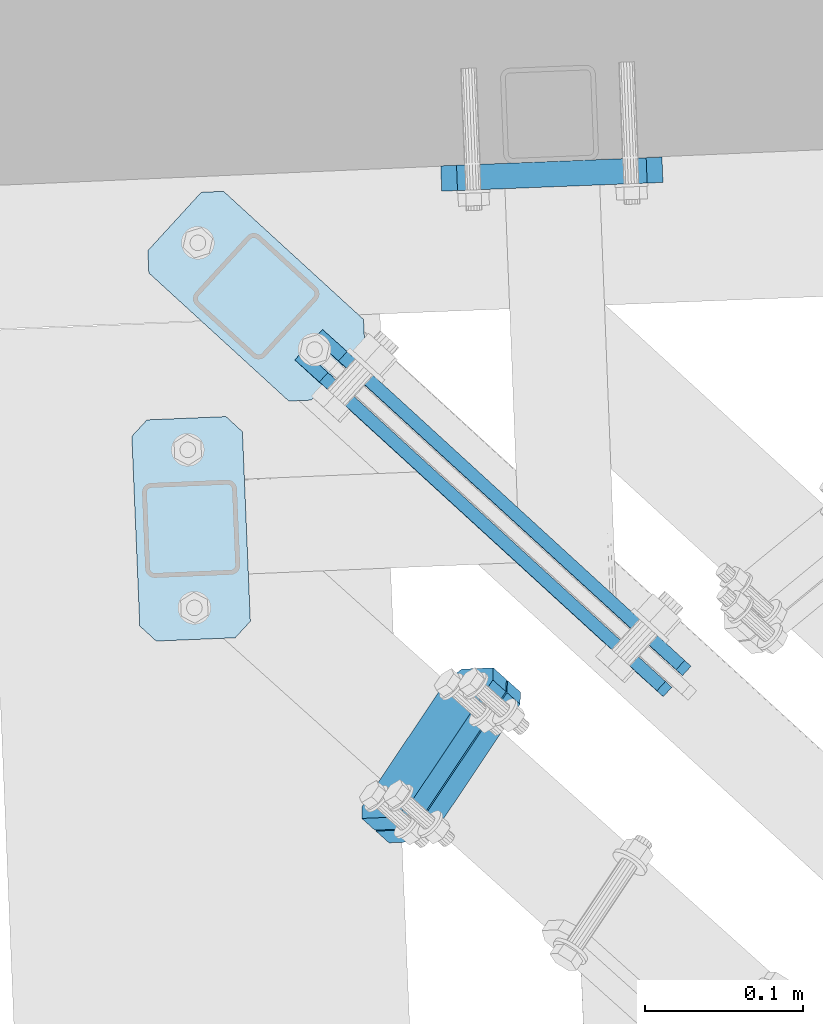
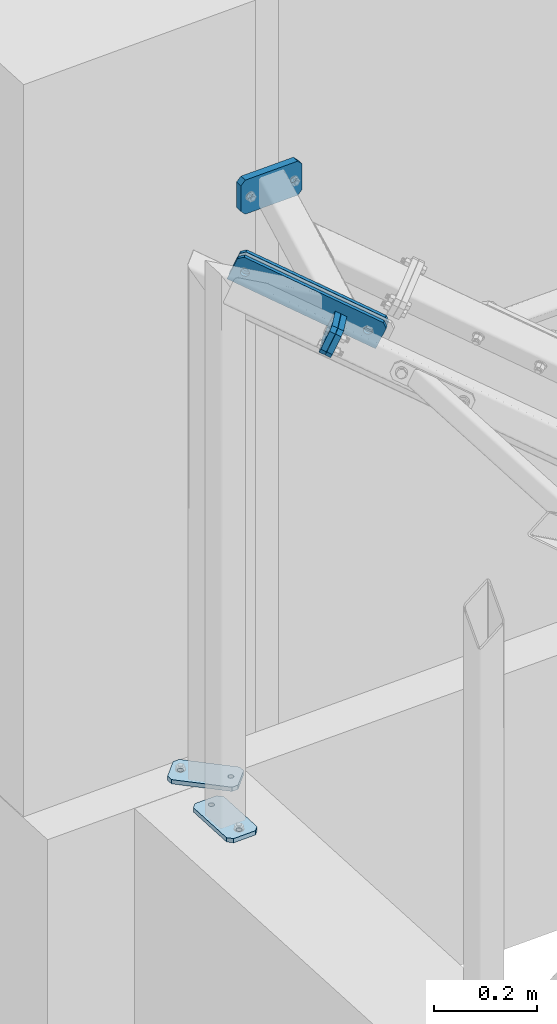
# One storey, part 57 of 288: 7 plates, 42 openings.
"""IFC2X3 building model written with IfcOpenShell, lengths in millimetres."""

from ifc_helpers import new_model, entity, si_unit, converted_unit, point, frame, frame_2d, origin, origin_with_axes, origin_2d_with_axis, place, context, project, spatial, polyline, circle_curve, line_curve, trimmed, segment, composite_curve, circle, outline, extrude, material, layer, layer_set, element, save


model = new_model("IFC2X3")

# Units and contexts
model_context = context("Model", 3, precision=1e-09, world=origin_with_axes())
ifc_project = project(units=[si_unit("LENGTHUNIT", "METRE", prefix="MILLI"), si_unit("AREAUNIT", "SQUARE_METRE"), si_unit("VOLUMEUNIT", "CUBIC_METRE"), converted_unit("PLANEANGLEUNIT", "DEGREE", entity("IfcPlaneAngleMeasure", 0.01745329), si_unit("PLANEANGLEUNIT", "RADIAN"), dimensions=[0, 0, 0, 0, 0, 0, 0])], contexts=[model_context])

# Site, building, storey
site_placement = place(None, origin_with_axes())
site = spatial("IfcSite", under=ifc_project, at=site_placement, Name="Remont ?wietlik?w nad MC w NCPP w Opolu", CompositionType="ELEMENT")
building_placement = place(site_placement, origin_with_axes())
building = spatial("IfcBuilding", under=site, at=building_placement, Name="Konstrukcja 1", CompositionType="ELEMENT")
storey_placement = place(building_placement, origin_with_axes())
storey = spatial("IfcBuildingStorey", under=building, at=storey_placement, Name="Default Storey", CompositionType="ELEMENT", Elevation=0.0)

# Plate, openings
ifc_material = material(Name="S235")
ifc_layer_1 = layer(ifc_material, 8.0)
ifc_layer_set_1 = layer_set([ifc_layer_1], Name="S235")
plate_1_placement = place(None, frame((-657.886025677, 15401.380087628, 1181.691606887), z_axis=(-0.67400264, -0.738719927, 0.003648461), x_axis=(0.682725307, -0.62478468, -0.378853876)))
plate_1 = element("IfcPlate", 1, at=plate_1_placement, inside=storey, material=ifc_layer_set_1, Name="Plate", ObjectType="Plate", context=model_context, shape_type="SweptSolid", body=[
    extrude(outline(polyline([(-32.295769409, 0.0), (286.199417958, 0.0), (286.199417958, 65.0), (-32.295769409, 65.0), (-32.295769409, 0.0)])), origin_with_axes(), (0.0, 0.0, 1.0), 8.0),
])
opening_1_placement = place(plate_1_placement, frame((0.0, 0.0, -0.01), z_axis=(0.0, 0.0, 1.0), x_axis=(1.0, 0.0, 0.0)))
element("IfcOpeningElement", 2, at=opening_1_placement, cuts=plate_1, ObjectType="Opening", context=model_context, shape_type="SweptSolid", body=[
    extrude(outline(composite_curve([segment(trimmed(line_curve((-32.295769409, 65.0), (0.0, -1.0), 10.0), [point((-32.295769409, 65.0))], [point((-32.295769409, 55.0))], True, "CARTESIAN"), True, "CONTINUOUS"), segment(trimmed(circle_curve(frame_2d((-22.295769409, 55.0), x_axis=(-1.0, 0.0)), 10.0), [point((-32.295769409, 55.0))], [point((-22.295769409, 65.0))], False, "CARTESIAN"), True, "CONTINUOUS"), segment(trimmed(line_curve((-22.295769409, 65.0), (-1.0, 0.0), 10.0), [point((-22.295769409, 65.0))], [point((-32.295769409, 65.0))], True, "CARTESIAN"), True, "CONTINUOUS")], self_intersect=False)), origin(), (0.0, 0.0, 1.0), 8.02),
])
opening_2_placement = place(plate_1_placement, frame((0.0, 0.0, -0.01), z_axis=(0.0, 0.0, 1.0), x_axis=(1.0, 0.0, 0.0)))
element("IfcOpeningElement", 3, at=opening_2_placement, cuts=plate_1, ObjectType="Opening", context=model_context, shape_type="SweptSolid", body=[
    extrude(outline(composite_curve([segment(trimmed(line_curve((286.199417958, 65.0), (-1.0, 0.0), 10.0), [point((286.199417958, 65.0))], [point((276.199417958, 65.0))], True, "CARTESIAN"), True, "CONTINUOUS"), segment(trimmed(circle_curve(frame_2d((276.199417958, 55.0), x_axis=(-1.0, 0.0)), 10.0), [point((276.199417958, 65.0))], [point((286.199417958, 55.0))], False, "CARTESIAN"), True, "CONTINUOUS"), segment(trimmed(line_curve((286.199417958, 55.0), (0.0, 1.0), 10.0), [point((286.199417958, 55.0))], [point((286.199417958, 65.0))], True, "CARTESIAN"), True, "CONTINUOUS")], self_intersect=False)), origin(), (0.0, 0.0, 1.0), 8.02),
])
opening_3_placement = place(plate_1_placement, frame((-7.295769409, 32.5, -0.5), z_axis=(0.0, 0.0, 1.0), x_axis=(0.0, 1.0, 0.0)))
element("IfcOpeningElement", 4, at=opening_3_placement, cuts=plate_1, ObjectType="Opening", context=model_context, shape_type="SweptSolid", body=[
    extrude(circle(Radius=9.001, at=origin_2d_with_axis()), origin(), (0.0, 0.0, 1.0), 9.0),
])
opening_4_placement = place(plate_1_placement, frame((256.199417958, 32.200010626, -0.5), z_axis=(0.0, 0.0, 1.0), x_axis=(0.0, 1.0, 0.0)))
element("IfcOpeningElement", 5, at=opening_4_placement, cuts=plate_1, ObjectType="Opening", context=model_context, shape_type="SweptSolid", body=[
    extrude(circle(Radius=9.001, at=origin_2d_with_axis()), origin(), (0.0, 0.0, 1.0), 9.0),
])

plate_2_placement = place(None, frame((-670.018073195, 15388.083128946, 1181.757279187), z_axis=(-0.67400264, -0.738719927, 0.003648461), x_axis=(0.682725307, -0.62478468, -0.378853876)))
plate_2 = element("IfcPlate", 6, at=plate_2_placement, inside=storey, material=ifc_layer_set_1, Name="Plate", ObjectType="Plate", context=model_context, shape_type="SweptSolid", body=[
    extrude(outline(polyline([(-32.295769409, 0.0), (286.199417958, 0.0), (286.199417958, 65.0), (-32.295769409, 65.0), (-32.295769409, 0.0)])), origin_with_axes(), (0.0, 0.0, 1.0), 8.0),
])
opening_5_placement = place(plate_2_placement, frame((0.0, 0.0, -0.01), z_axis=(0.0, 0.0, 1.0), x_axis=(1.0, 0.0, 0.0)))
element("IfcOpeningElement", 7, at=opening_5_placement, cuts=plate_2, ObjectType="Opening", context=model_context, shape_type="SweptSolid", body=[
    extrude(outline(composite_curve([segment(trimmed(line_curve((-32.295769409, 65.0), (0.0, -1.0), 10.0), [point((-32.295769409, 65.0))], [point((-32.295769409, 55.0))], True, "CARTESIAN"), True, "CONTINUOUS"), segment(trimmed(circle_curve(frame_2d((-22.295769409, 55.0), x_axis=(-1.0, 0.0)), 10.0), [point((-32.295769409, 55.0))], [point((-22.295769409, 65.0))], False, "CARTESIAN"), True, "CONTINUOUS"), segment(trimmed(line_curve((-22.295769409, 65.0), (-1.0, 0.0), 10.0), [point((-22.295769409, 65.0))], [point((-32.295769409, 65.0))], True, "CARTESIAN"), True, "CONTINUOUS")], self_intersect=False)), origin(), (0.0, 0.0, 1.0), 8.02),
])
opening_6_placement = place(plate_2_placement, frame((0.0, 0.0, -0.01), z_axis=(0.0, 0.0, 1.0), x_axis=(1.0, 0.0, 0.0)))
element("IfcOpeningElement", 8, at=opening_6_placement, cuts=plate_2, ObjectType="Opening", context=model_context, shape_type="SweptSolid", body=[
    extrude(outline(composite_curve([segment(trimmed(line_curve((286.199417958, 65.0), (-1.0, 0.0), 10.0), [point((286.199417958, 65.0))], [point((276.199417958, 65.0))], True, "CARTESIAN"), True, "CONTINUOUS"), segment(trimmed(circle_curve(frame_2d((276.199417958, 55.0), x_axis=(-1.0, 0.0)), 10.0), [point((276.199417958, 65.0))], [point((286.199417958, 55.0))], False, "CARTESIAN"), True, "CONTINUOUS"), segment(trimmed(line_curve((286.199417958, 55.0), (0.0, 1.0), 10.0), [point((286.199417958, 55.0))], [point((286.199417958, 65.0))], True, "CARTESIAN"), True, "CONTINUOUS")], self_intersect=False)), origin(), (0.0, 0.0, 1.0), 8.02),
])
opening_7_placement = place(plate_2_placement, frame((256.199417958, 32.200010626, -0.5), z_axis=(0.0, 0.0, 1.0), x_axis=(0.0, 1.0, 0.0)))
element("IfcOpeningElement", 9, at=opening_7_placement, cuts=plate_2, ObjectType="Opening", context=model_context, shape_type="SweptSolid", body=[
    extrude(circle(Radius=9.001, at=origin_2d_with_axis()), origin(), (0.0, 0.0, 1.0), 9.0),
])
opening_8_placement = place(plate_2_placement, frame((-7.295769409, 32.5, -0.5), z_axis=(0.0, 0.0, 1.0), x_axis=(0.0, 1.0, 0.0)))
element("IfcOpeningElement", 10, at=opening_8_placement, cuts=plate_2, ObjectType="Opening", context=model_context, shape_type="SweptSolid", body=[
    extrude(circle(Radius=9.001, at=origin_2d_with_axis()), origin(), (0.0, 0.0, 1.0), 9.0),
])

ifc_layer_2 = layer(ifc_material, 10.0)
ifc_layer_set_2 = layer_set([ifc_layer_2], Name="S235")
plate_3_placement = place(None, frame((-800.929724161, 15364.039745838, 10.010000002), z_axis=(0.0, 0.0, -1.0), x_axis=(0.999131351, 0.041671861, 0.0)))
plate_3 = element("IfcPlate", 11, at=plate_3_placement, inside=storey, material=ifc_layer_set_2, Name="Baseplate", ObjectType="Baseplate", context=model_context, shape_type="SweptSolid", body=[
    extrude(outline(polyline([(0.0, 0.0), (70.0, 0.0), (70.0, 140.0), (0.0, 140.0), (0.0, 0.0)])), origin_with_axes(), (0.0, 0.0, 1.0), 10.0),
])
opening_9_placement = place(plate_3_placement, frame((0.0, 0.0, -0.01), z_axis=(0.0, 0.0, 1.0), x_axis=(1.0, 0.0, 0.0)))
element("IfcOpeningElement", 12, at=opening_9_placement, cuts=plate_3, ObjectType="Opening", context=model_context, shape_type="SweptSolid", body=[
    extrude(outline(composite_curve([segment(trimmed(line_curve((70.0, 0.0), (0.0, 1.0), 10.0), [point((70.0, 0.0))], [point((70.0, 10.0))], True, "CARTESIAN"), True, "CONTINUOUS"), segment(trimmed(circle_curve(frame_2d((60.0, 10.0), x_axis=(-1.0, 0.0)), 10.0), [point((70.0, 10.0))], [point((60.0, 0.0))], False, "CARTESIAN"), True, "CONTINUOUS"), segment(trimmed(line_curve((60.0, 0.0), (1.0, 0.0), 10.0), [point((60.0, 0.0))], [point((70.0, 0.0))], True, "CARTESIAN"), True, "CONTINUOUS")], self_intersect=False)), origin(), (0.0, 0.0, 1.0), 10.02),
])
opening_10_placement = place(plate_3_placement, frame((0.0, 0.0, -0.01), z_axis=(0.0, 0.0, 1.0), x_axis=(1.0, 0.0, 0.0)))
element("IfcOpeningElement", 13, at=opening_10_placement, cuts=plate_3, ObjectType="Opening", context=model_context, shape_type="SweptSolid", body=[
    extrude(outline(composite_curve([segment(trimmed(line_curve((0.0, 0.0), (1.0, 0.0), 10.0), [point((0.0, 0.0))], [point((10.0, 0.0))], True, "CARTESIAN"), True, "CONTINUOUS"), segment(trimmed(circle_curve(frame_2d((10.0, 10.0), x_axis=(-1.0, 0.0)), 10.0), [point((10.0, 0.0))], [point((0.0, 10.0))], False, "CARTESIAN"), True, "CONTINUOUS"), segment(trimmed(line_curve((0.0, 10.0), (0.0, -1.0), 10.0), [point((0.0, 10.0))], [point((0.0, 0.0))], True, "CARTESIAN"), True, "CONTINUOUS")], self_intersect=False)), origin(), (0.0, 0.0, 1.0), 10.02),
])
opening_11_placement = place(plate_3_placement, frame((0.0, 0.0, -0.01), z_axis=(0.0, 0.0, 1.0), x_axis=(1.0, 0.0, 0.0)))
element("IfcOpeningElement", 14, at=opening_11_placement, cuts=plate_3, ObjectType="Opening", context=model_context, shape_type="SweptSolid", body=[
    extrude(outline(composite_curve([segment(trimmed(line_curve((70.0, 140.0), (-1.0, 0.0), 10.0), [point((70.0, 140.0))], [point((60.0, 140.0))], True, "CARTESIAN"), True, "CONTINUOUS"), segment(trimmed(circle_curve(frame_2d((60.0, 130.0), x_axis=(-1.0, 0.0)), 10.0), [point((60.0, 140.0))], [point((70.0, 130.0))], False, "CARTESIAN"), True, "CONTINUOUS"), segment(trimmed(line_curve((70.0, 130.0), (0.0, 1.0), 10.0), [point((70.0, 130.0))], [point((70.0, 140.0))], True, "CARTESIAN"), True, "CONTINUOUS")], self_intersect=False)), origin(), (0.0, 0.0, 1.0), 10.02),
])
opening_12_placement = place(plate_3_placement, frame((0.0, 0.0, -0.01), z_axis=(0.0, 0.0, 1.0), x_axis=(1.0, 0.0, 0.0)))
element("IfcOpeningElement", 15, at=opening_12_placement, cuts=plate_3, ObjectType="Opening", context=model_context, shape_type="SweptSolid", body=[
    extrude(outline(composite_curve([segment(trimmed(line_curve((0.0, 140.0), (0.0, -1.0), 10.0), [point((0.0, 140.0))], [point((0.0, 130.0))], True, "CARTESIAN"), True, "CONTINUOUS"), segment(trimmed(circle_curve(frame_2d((10.0, 130.0), x_axis=(-1.0, 0.0)), 10.0), [point((0.0, 130.0))], [point((10.0, 140.0))], False, "CARTESIAN"), True, "CONTINUOUS"), segment(trimmed(line_curve((10.0, 140.0), (-1.0, 0.0), 10.0), [point((10.0, 140.0))], [point((0.0, 140.0))], True, "CARTESIAN"), True, "CONTINUOUS")], self_intersect=False)), origin(), (0.0, 0.0, 1.0), 10.02),
])
opening_13_placement = place(plate_3_placement, frame((35.0, 20.0, 10.5), z_axis=(0.0, 0.0, -1.0), x_axis=(1.0, 0.0, 0.0)))
element("IfcOpeningElement", 16, at=opening_13_placement, cuts=plate_3, ObjectType="Opening", context=model_context, shape_type="SweptSolid", body=[
    extrude(circle(Radius=6.001, at=origin_2d_with_axis()), origin(), (0.0, 0.0, 1.0), 11.0),
])
opening_14_placement = place(plate_3_placement, frame((35.0, 120.0, 10.5), z_axis=(0.0, 0.0, -1.0), x_axis=(1.0, 0.0, 0.0)))
element("IfcOpeningElement", 17, at=opening_14_placement, cuts=plate_3, ObjectType="Opening", context=model_context, shape_type="SweptSolid", body=[
    extrude(circle(Radius=6.001, at=origin_2d_with_axis()), origin(), (0.0, 0.0, 1.0), 11.0),
])

ifc_layer_3 = layer(ifc_material, 12.0)
ifc_layer_set_3 = layer_set([ifc_layer_3], Name="S235")
plate_4_placement = place(None, frame((-621.180155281, 15105.461624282, 1227.37297823), z_axis=(0.688159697, -0.616779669, -0.382124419), x_axis=(-0.499565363, -0.020836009, -0.866025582)))
plate_4 = element("IfcPlate", 18, at=plate_4_placement, inside=storey, material=ifc_layer_set_3, Name="Endplate#1", ObjectType="Endplate#1", context=model_context, shape_type="SweptSolid", body=[
    extrude(outline(polyline([(0.0, 0.0), (60.0, 0.0), (60.0, 120.0), (0.0, 120.0), (0.0, 0.0)])), origin_with_axes(), (0.0, 0.0, 1.0), 12.0),
])
opening_15_placement = place(plate_4_placement, frame((45.0, 60.0, 12.5), z_axis=(0.0, 0.0, -1.0), x_axis=(1.0, 0.0, 0.0)))
element("IfcOpeningElement", 19, at=opening_15_placement, cuts=plate_4, ObjectType="Opening", context=model_context, shape_type="SweptSolid", body=[
    extrude(circle(Radius=6.001, at=frame_2d((0.0, 45.0), x_axis=(1.0, 0.0))), origin(), (0.0, 0.0, 1.0), 13.0),
])
opening_16_placement = place(plate_4_placement, frame((45.0, 60.0, 12.5), z_axis=(0.0, 0.0, -1.0), x_axis=(1.0, 0.0, 0.0)))
element("IfcOpeningElement", 20, at=opening_16_placement, cuts=plate_4, ObjectType="Opening", context=model_context, shape_type="SweptSolid", body=[
    extrude(circle(Radius=6.001, at=frame_2d((0.0, -45.0), x_axis=(1.0, 0.0))), origin(), (0.0, 0.0, 1.0), 13.0),
])
opening_17_placement = place(plate_4_placement, frame((15.0, 60.0, 12.5), z_axis=(0.0, 0.0, -1.0), x_axis=(1.0, 0.0, 0.0)))
element("IfcOpeningElement", 21, at=opening_17_placement, cuts=plate_4, ObjectType="Opening", context=model_context, shape_type="SweptSolid", body=[
    extrude(circle(Radius=6.001, at=frame_2d((0.0, 45.0), x_axis=(1.0, 0.0))), origin(), (0.0, 0.0, 1.0), 13.0),
])
opening_18_placement = place(plate_4_placement, frame((15.0, 60.0, 12.5), z_axis=(0.0, 0.0, -1.0), x_axis=(1.0, 0.0, 0.0)))
element("IfcOpeningElement", 22, at=opening_18_placement, cuts=plate_4, ObjectType="Opening", context=model_context, shape_type="SweptSolid", body=[
    extrude(circle(Radius=6.001, at=frame_2d((0.0, -45.0), x_axis=(1.0, 0.0))), origin(), (0.0, 0.0, 1.0), 13.0),
])
opening_19_placement = place(plate_4_placement, frame((0.0, 0.0, -0.01), z_axis=(0.0, 0.0, 1.0), x_axis=(1.0, 0.0, 0.0)))
element("IfcOpeningElement", 23, at=opening_19_placement, cuts=plate_4, ObjectType="Opening", context=model_context, shape_type="SweptSolid", body=[
    extrude(outline(composite_curve([segment(trimmed(line_curve((60.0, 0.0), (0.0, 1.0), 10.0), [point((60.0, 0.0))], [point((60.0, 10.0))], True, "CARTESIAN"), True, "CONTINUOUS"), segment(trimmed(circle_curve(frame_2d((50.0, 10.0), x_axis=(-1.0, 0.0)), 10.0), [point((60.0, 10.0))], [point((50.0, 0.0))], False, "CARTESIAN"), True, "CONTINUOUS"), segment(trimmed(line_curve((50.0, 0.0), (1.0, 0.0), 10.0), [point((50.0, 0.0))], [point((60.0, 0.0))], True, "CARTESIAN"), True, "CONTINUOUS")], self_intersect=False)), origin(), (0.0, 0.0, 1.0), 12.02),
])
opening_20_placement = place(plate_4_placement, frame((0.0, 0.0, -0.01), z_axis=(0.0, 0.0, 1.0), x_axis=(1.0, 0.0, 0.0)))
element("IfcOpeningElement", 24, at=opening_20_placement, cuts=plate_4, ObjectType="Opening", context=model_context, shape_type="SweptSolid", body=[
    extrude(outline(composite_curve([segment(trimmed(line_curve((0.0, 120.0), (0.0, -1.0), 10.0), [point((0.0, 120.0))], [point((0.0, 110.0))], True, "CARTESIAN"), True, "CONTINUOUS"), segment(trimmed(circle_curve(frame_2d((10.0, 110.0), x_axis=(-1.0, 0.0)), 10.0), [point((0.0, 110.0))], [point((10.0, 120.0))], False, "CARTESIAN"), True, "CONTINUOUS"), segment(trimmed(line_curve((10.0, 120.0), (-1.0, 0.0), 10.0), [point((10.0, 120.0))], [point((0.0, 120.0))], True, "CARTESIAN"), True, "CONTINUOUS")], self_intersect=False)), origin(), (0.0, 0.0, 1.0), 12.02),
])
opening_21_placement = place(plate_4_placement, frame((0.0, 0.0, -0.01), z_axis=(0.0, 0.0, 1.0), x_axis=(1.0, 0.0, 0.0)))
element("IfcOpeningElement", 25, at=opening_21_placement, cuts=plate_4, ObjectType="Opening", context=model_context, shape_type="SweptSolid", body=[
    extrude(outline(composite_curve([segment(trimmed(line_curve((60.0, 120.0), (-1.0, 0.0), 10.0), [point((60.0, 120.0))], [point((50.0, 120.0))], True, "CARTESIAN"), True, "CONTINUOUS"), segment(trimmed(circle_curve(frame_2d((50.0, 110.0), x_axis=(-1.0, 0.0)), 10.0), [point((50.0, 120.0))], [point((60.0, 110.0))], False, "CARTESIAN"), True, "CONTINUOUS"), segment(trimmed(line_curve((60.0, 110.0), (0.0, 1.0), 10.0), [point((60.0, 110.0))], [point((60.0, 120.0))], True, "CARTESIAN"), True, "CONTINUOUS")], self_intersect=False)), origin(), (0.0, 0.0, 1.0), 12.02),
])
opening_22_placement = place(plate_4_placement, frame((0.0, 0.0, -0.01), z_axis=(0.0, 0.0, 1.0), x_axis=(1.0, 0.0, 0.0)))
element("IfcOpeningElement", 26, at=opening_22_placement, cuts=plate_4, ObjectType="Opening", context=model_context, shape_type="SweptSolid", body=[
    extrude(outline(composite_curve([segment(trimmed(line_curve((0.0, 0.0), (1.0, 0.0), 10.0), [point((0.0, 0.0))], [point((10.0, 0.0))], True, "CARTESIAN"), True, "CONTINUOUS"), segment(trimmed(circle_curve(frame_2d((10.0, 10.0), x_axis=(-1.0, 0.0)), 10.0), [point((10.0, 0.0))], [point((0.0, 10.0))], False, "CARTESIAN"), True, "CONTINUOUS"), segment(trimmed(line_curve((0.0, 10.0), (0.0, -1.0), 10.0), [point((0.0, 10.0))], [point((0.0, 0.0))], True, "CARTESIAN"), True, "CONTINUOUS")], self_intersect=False)), origin(), (0.0, 0.0, 1.0), 12.02),
])

plate_5_placement = place(None, frame((-630.126231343, 15113.479759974, 1232.340595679), z_axis=(0.688159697, -0.616779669, -0.382124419), x_axis=(-0.499565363, -0.020836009, -0.866025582)))
plate_5 = element("IfcPlate", 27, at=plate_5_placement, inside=storey, material=ifc_layer_set_3, Name="Endplate#2", ObjectType="Endplate#2", context=model_context, shape_type="SweptSolid", body=[
    extrude(outline(polyline([(0.0, 0.0), (60.0, 0.0), (60.0, 120.0), (0.0, 120.0), (0.0, 0.0)])), origin_with_axes(), (0.0, 0.0, 1.0), 12.0),
])
opening_23_placement = place(plate_5_placement, frame((15.0, 60.0, 12.5), z_axis=(0.0, 0.0, -1.0), x_axis=(1.0, 0.0, 0.0)))
element("IfcOpeningElement", 28, at=opening_23_placement, cuts=plate_5, ObjectType="Opening", context=model_context, shape_type="SweptSolid", body=[
    extrude(circle(Radius=6.001, at=frame_2d((0.0, 45.0), x_axis=(1.0, 0.0))), origin(), (0.0, 0.0, 1.0), 13.0),
])
opening_24_placement = place(plate_5_placement, frame((15.0, 60.0, 12.5), z_axis=(0.0, 0.0, -1.0), x_axis=(1.0, 0.0, 0.0)))
element("IfcOpeningElement", 29, at=opening_24_placement, cuts=plate_5, ObjectType="Opening", context=model_context, shape_type="SweptSolid", body=[
    extrude(circle(Radius=6.001, at=frame_2d((0.0, -45.0), x_axis=(1.0, 0.0))), origin(), (0.0, 0.0, 1.0), 13.0),
])
opening_25_placement = place(plate_5_placement, frame((45.0, 60.0, 12.5), z_axis=(0.0, 0.0, -1.0), x_axis=(1.0, 0.0, 0.0)))
element("IfcOpeningElement", 30, at=opening_25_placement, cuts=plate_5, ObjectType="Opening", context=model_context, shape_type="SweptSolid", body=[
    extrude(circle(Radius=6.001, at=frame_2d((0.0, 45.0), x_axis=(1.0, 0.0))), origin(), (0.0, 0.0, 1.0), 13.0),
])
opening_26_placement = place(plate_5_placement, frame((45.0, 60.0, 12.5), z_axis=(0.0, 0.0, -1.0), x_axis=(1.0, 0.0, 0.0)))
element("IfcOpeningElement", 31, at=opening_26_placement, cuts=plate_5, ObjectType="Opening", context=model_context, shape_type="SweptSolid", body=[
    extrude(circle(Radius=6.001, at=frame_2d((0.0, -45.0), x_axis=(1.0, 0.0))), origin(), (0.0, 0.0, 1.0), 13.0),
])
opening_27_placement = place(plate_5_placement, frame((0.0, 0.0, -0.01), z_axis=(0.0, 0.0, 1.0), x_axis=(1.0, 0.0, 0.0)))
element("IfcOpeningElement", 32, at=opening_27_placement, cuts=plate_5, ObjectType="Opening", context=model_context, shape_type="SweptSolid", body=[
    extrude(outline(composite_curve([segment(trimmed(line_curve((60.0, 0.0), (0.0, 1.0), 10.0), [point((60.0, 0.0))], [point((60.0, 10.0))], True, "CARTESIAN"), True, "CONTINUOUS"), segment(trimmed(circle_curve(frame_2d((50.0, 10.0), x_axis=(-1.0, 0.0)), 10.0), [point((60.0, 10.0))], [point((50.0, 0.0))], False, "CARTESIAN"), True, "CONTINUOUS"), segment(trimmed(line_curve((50.0, 0.0), (1.0, 0.0), 10.0), [point((50.0, 0.0))], [point((60.0, 0.0))], True, "CARTESIAN"), True, "CONTINUOUS")], self_intersect=False)), origin(), (0.0, 0.0, 1.0), 12.02),
])
opening_28_placement = place(plate_5_placement, frame((0.0, 0.0, -0.01), z_axis=(0.0, 0.0, 1.0), x_axis=(1.0, 0.0, 0.0)))
element("IfcOpeningElement", 33, at=opening_28_placement, cuts=plate_5, ObjectType="Opening", context=model_context, shape_type="SweptSolid", body=[
    extrude(outline(composite_curve([segment(trimmed(line_curve((0.0, 120.0), (0.0, -1.0), 10.0), [point((0.0, 120.0))], [point((0.0, 110.0))], True, "CARTESIAN"), True, "CONTINUOUS"), segment(trimmed(circle_curve(frame_2d((10.0, 110.0), x_axis=(-1.0, 0.0)), 10.0), [point((0.0, 110.0))], [point((10.0, 120.0))], False, "CARTESIAN"), True, "CONTINUOUS"), segment(trimmed(line_curve((10.0, 120.0), (-1.0, 0.0), 10.0), [point((10.0, 120.0))], [point((0.0, 120.0))], True, "CARTESIAN"), True, "CONTINUOUS")], self_intersect=False)), origin(), (0.0, 0.0, 1.0), 12.02),
])
opening_29_placement = place(plate_5_placement, frame((0.0, 0.0, -0.01), z_axis=(0.0, 0.0, 1.0), x_axis=(1.0, 0.0, 0.0)))
element("IfcOpeningElement", 34, at=opening_29_placement, cuts=plate_5, ObjectType="Opening", context=model_context, shape_type="SweptSolid", body=[
    extrude(outline(composite_curve([segment(trimmed(line_curve((60.0, 120.0), (-1.0, 0.0), 10.0), [point((60.0, 120.0))], [point((50.0, 120.0))], True, "CARTESIAN"), True, "CONTINUOUS"), segment(trimmed(circle_curve(frame_2d((50.0, 110.0), x_axis=(-1.0, 0.0)), 10.0), [point((50.0, 120.0))], [point((60.0, 110.0))], False, "CARTESIAN"), True, "CONTINUOUS"), segment(trimmed(line_curve((60.0, 110.0), (0.0, 1.0), 10.0), [point((60.0, 110.0))], [point((60.0, 120.0))], True, "CARTESIAN"), True, "CONTINUOUS")], self_intersect=False)), origin(), (0.0, 0.0, 1.0), 12.02),
])
opening_30_placement = place(plate_5_placement, frame((0.0, 0.0, -0.01), z_axis=(0.0, 0.0, 1.0), x_axis=(1.0, 0.0, 0.0)))
element("IfcOpeningElement", 35, at=opening_30_placement, cuts=plate_5, ObjectType="Opening", context=model_context, shape_type="SweptSolid", body=[
    extrude(outline(composite_curve([segment(trimmed(line_curve((0.0, 0.0), (1.0, 0.0), 10.0), [point((0.0, 0.0))], [point((10.0, 0.0))], True, "CARTESIAN"), True, "CONTINUOUS"), segment(trimmed(circle_curve(frame_2d((10.0, 10.0), x_axis=(-1.0, 0.0)), 10.0), [point((10.0, 0.0))], [point((0.0, 10.0))], False, "CARTESIAN"), True, "CONTINUOUS"), segment(trimmed(line_curve((0.0, 10.0), (0.0, -1.0), 10.0), [point((0.0, 10.0))], [point((0.0, 0.0))], True, "CARTESIAN"), True, "CONTINUOUS")], self_intersect=False)), origin(), (0.0, 0.0, 1.0), 12.02),
])

plate_6_placement = place(None, frame((-646.609463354, 15421.20383951, 10.000000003), z_axis=(0.0, 0.0, -1.0), x_axis=(-0.675107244, -0.737719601, 0.0)))
plate_6 = element("IfcPlate", 36, at=plate_6_placement, inside=storey, material=ifc_layer_set_2, Name="Baseplate", ObjectType="Baseplate", context=model_context, shape_type="SweptSolid", body=[
    extrude(outline(polyline([(0.0, 0.0), (70.0, 0.0), (70.0, 140.0), (0.0, 140.0), (0.0, 0.0)])), origin_with_axes(), (0.0, 0.0, 1.0), 10.0),
])
opening_31_placement = place(plate_6_placement, frame((0.0, 0.0, -0.01), z_axis=(0.0, 0.0, 1.0), x_axis=(1.0, 0.0, 0.0)))
element("IfcOpeningElement", 37, at=opening_31_placement, cuts=plate_6, ObjectType="Opening", context=model_context, shape_type="SweptSolid", body=[
    extrude(outline(composite_curve([segment(trimmed(line_curve((70.0, 140.0), (-1.0, 0.0), 10.0), [point((70.0, 140.0))], [point((60.0, 140.0))], True, "CARTESIAN"), True, "CONTINUOUS"), segment(trimmed(circle_curve(frame_2d((60.0, 130.0), x_axis=(-1.0, 0.0)), 10.0), [point((60.0, 140.0))], [point((70.0, 130.0))], False, "CARTESIAN"), True, "CONTINUOUS"), segment(trimmed(line_curve((70.0, 130.0), (0.0, 1.0), 10.0), [point((70.0, 130.0))], [point((70.0, 140.0))], True, "CARTESIAN"), True, "CONTINUOUS")], self_intersect=False)), origin(), (0.0, 0.0, 1.0), 10.02),
])
opening_32_placement = place(plate_6_placement, frame((0.0, 0.0, -0.01), z_axis=(0.0, 0.0, 1.0), x_axis=(1.0, 0.0, 0.0)))
element("IfcOpeningElement", 38, at=opening_32_placement, cuts=plate_6, ObjectType="Opening", context=model_context, shape_type="SweptSolid", body=[
    extrude(outline(composite_curve([segment(trimmed(line_curve((0.0, 140.0), (0.0, -1.0), 10.0), [point((0.0, 140.0))], [point((0.0, 130.0))], True, "CARTESIAN"), True, "CONTINUOUS"), segment(trimmed(circle_curve(frame_2d((10.0, 130.0), x_axis=(-1.0, 0.0)), 10.0), [point((0.0, 130.0))], [point((10.0, 140.0))], False, "CARTESIAN"), True, "CONTINUOUS"), segment(trimmed(line_curve((10.0, 140.0), (-1.0, 0.0), 10.0), [point((10.0, 140.0))], [point((0.0, 140.0))], True, "CARTESIAN"), True, "CONTINUOUS")], self_intersect=False)), origin(), (0.0, 0.0, 1.0), 10.02),
])
opening_33_placement = place(plate_6_placement, frame((0.0, 0.0, -0.01), z_axis=(0.0, 0.0, 1.0), x_axis=(1.0, 0.0, 0.0)))
element("IfcOpeningElement", 39, at=opening_33_placement, cuts=plate_6, ObjectType="Opening", context=model_context, shape_type="SweptSolid", body=[
    extrude(outline(composite_curve([segment(trimmed(line_curve((0.0, 0.0), (1.0, 0.0), 10.0), [point((0.0, 0.0))], [point((10.0, 0.0))], True, "CARTESIAN"), True, "CONTINUOUS"), segment(trimmed(circle_curve(frame_2d((10.0, 10.0), x_axis=(-1.0, 0.0)), 10.0), [point((10.0, 0.0))], [point((0.0, 10.0))], False, "CARTESIAN"), True, "CONTINUOUS"), segment(trimmed(line_curve((0.0, 10.0), (0.0, -1.0), 10.0), [point((0.0, 10.0))], [point((0.0, 0.0))], True, "CARTESIAN"), True, "CONTINUOUS")], self_intersect=False)), origin(), (0.0, 0.0, 1.0), 10.02),
])
opening_34_placement = place(plate_6_placement, frame((0.0, 0.0, -0.01), z_axis=(0.0, 0.0, 1.0), x_axis=(1.0, 0.0, 0.0)))
element("IfcOpeningElement", 40, at=opening_34_placement, cuts=plate_6, ObjectType="Opening", context=model_context, shape_type="SweptSolid", body=[
    extrude(outline(composite_curve([segment(trimmed(line_curve((70.0, 0.0), (0.0, 1.0), 10.0), [point((70.0, 0.0))], [point((70.0, 10.0))], True, "CARTESIAN"), True, "CONTINUOUS"), segment(trimmed(circle_curve(frame_2d((60.0, 10.0), x_axis=(-1.0, 0.0)), 10.0), [point((70.0, 10.0))], [point((60.0, 0.0))], False, "CARTESIAN"), True, "CONTINUOUS"), segment(trimmed(line_curve((60.0, 0.0), (1.0, 0.0), 10.0), [point((60.0, 0.0))], [point((70.0, 0.0))], True, "CARTESIAN"), True, "CONTINUOUS")], self_intersect=False)), origin(), (0.0, 0.0, 1.0), 10.02),
])
opening_35_placement = place(plate_6_placement, frame((35.0, 120.0, 10.5), z_axis=(0.0, 0.0, -1.0), x_axis=(1.0, 0.0, 0.0)))
element("IfcOpeningElement", 41, at=opening_35_placement, cuts=plate_6, ObjectType="Opening", context=model_context, shape_type="SweptSolid", body=[
    extrude(circle(Radius=6.001, at=origin_2d_with_axis()), origin(), (0.0, 0.0, 1.0), 11.0),
])
opening_36_placement = place(plate_6_placement, frame((35.0, 20.0, 10.5), z_axis=(0.0, 0.0, -1.0), x_axis=(1.0, 0.0, 0.0)))
element("IfcOpeningElement", 42, at=opening_36_placement, cuts=plate_6, ObjectType="Opening", context=model_context, shape_type="SweptSolid", body=[
    extrude(circle(Radius=6.001, at=origin_2d_with_axis()), origin(), (0.0, 0.0, 1.0), 11.0),
])

ifc_layer_4 = layer(ifc_material, 16.0)
ifc_layer_set_4 = layer_set([ifc_layer_4], Name="S235")
plate_7_placement = place(None, frame((-464.692216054, 15514.575223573, 1326.595148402), z_axis=(-0.039393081, 0.999223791, 0.0), x_axis=(0.0, 0.0, -1.0)))
plate_7 = element("IfcPlate", 43, at=plate_7_placement, inside=storey, material=ifc_layer_set_4, Name="Baseplate", ObjectType="Baseplate", context=model_context, shape_type="SweptSolid", body=[
    extrude(outline(polyline([(0.0, 0.0), (80.53980442, 0.0), (80.53980442, 140.0), (0.0, 140.0), (0.0, 0.0)])), origin_with_axes(), (0.0, 0.0, 1.0), 16.0),
])
opening_37_placement = place(plate_7_placement, frame((0.0, 0.0, -0.01), z_axis=(0.0, 0.0, 1.0), x_axis=(1.0, 0.0, 0.0)))
element("IfcOpeningElement", 44, at=opening_37_placement, cuts=plate_7, ObjectType="Opening", context=model_context, shape_type="SweptSolid", body=[
    extrude(outline(composite_curve([segment(trimmed(line_curve((0.0, 140.0), (0.0, -1.0), 10.0), [point((0.0, 140.0))], [point((0.0, 130.0))], True, "CARTESIAN"), True, "CONTINUOUS"), segment(trimmed(circle_curve(frame_2d((10.0, 130.0), x_axis=(-1.0, 0.0)), 10.0), [point((0.0, 130.0))], [point((10.0, 140.0))], False, "CARTESIAN"), True, "CONTINUOUS"), segment(trimmed(line_curve((10.0, 140.0), (-1.0, 0.0), 10.0), [point((10.0, 140.0))], [point((0.0, 140.0))], True, "CARTESIAN"), True, "CONTINUOUS")], self_intersect=False)), origin(), (0.0, 0.0, 1.0), 16.02),
])
opening_38_placement = place(plate_7_placement, frame((0.0, 0.0, -0.01), z_axis=(0.0, 0.0, 1.0), x_axis=(1.0, 0.0, 0.0)))
element("IfcOpeningElement", 45, at=opening_38_placement, cuts=plate_7, ObjectType="Opening", context=model_context, shape_type="SweptSolid", body=[
    extrude(outline(composite_curve([segment(trimmed(line_curve((80.53980442, 140.0), (-1.0, 0.0), 10.0), [point((80.53980442, 140.0))], [point((70.53980442, 140.0))], True, "CARTESIAN"), True, "CONTINUOUS"), segment(trimmed(circle_curve(frame_2d((70.53980442, 130.0), x_axis=(-1.0, 0.0)), 10.0), [point((70.53980442, 140.0))], [point((80.53980442, 130.0))], False, "CARTESIAN"), True, "CONTINUOUS"), segment(trimmed(line_curve((80.53980442, 130.0), (0.0, 1.0), 10.0), [point((80.53980442, 130.0))], [point((80.53980442, 140.0))], True, "CARTESIAN"), True, "CONTINUOUS")], self_intersect=False)), origin(), (0.0, 0.0, 1.0), 16.02),
])
opening_39_placement = place(plate_7_placement, frame((0.0, 0.0, -0.01), z_axis=(0.0, 0.0, 1.0), x_axis=(1.0, 0.0, 0.0)))
element("IfcOpeningElement", 46, at=opening_39_placement, cuts=plate_7, ObjectType="Opening", context=model_context, shape_type="SweptSolid", body=[
    extrude(outline(composite_curve([segment(trimmed(line_curve((80.53980442, 0.0), (0.0, 1.0), 10.0), [point((80.53980442, 0.0))], [point((80.53980442, 10.0))], True, "CARTESIAN"), True, "CONTINUOUS"), segment(trimmed(circle_curve(frame_2d((70.53980442, 10.0), x_axis=(-1.0, 0.0)), 10.0), [point((80.53980442, 10.0))], [point((70.53980442, 0.0))], False, "CARTESIAN"), True, "CONTINUOUS"), segment(trimmed(line_curve((70.53980442, 0.0), (1.0, 0.0), 10.0), [point((70.53980442, 0.0))], [point((80.53980442, 0.0))], True, "CARTESIAN"), True, "CONTINUOUS")], self_intersect=False)), origin(), (0.0, 0.0, 1.0), 16.02),
])
opening_40_placement = place(plate_7_placement, frame((0.0, 0.0, -0.01), z_axis=(0.0, 0.0, 1.0), x_axis=(1.0, 0.0, 0.0)))
element("IfcOpeningElement", 47, at=opening_40_placement, cuts=plate_7, ObjectType="Opening", context=model_context, shape_type="SweptSolid", body=[
    extrude(outline(composite_curve([segment(trimmed(line_curve((0.0, 0.0), (1.0, 0.0), 10.0), [point((0.0, 0.0))], [point((10.0, 0.0))], True, "CARTESIAN"), True, "CONTINUOUS"), segment(trimmed(circle_curve(frame_2d((10.0, 10.0), x_axis=(-1.0, 0.0)), 10.0), [point((10.0, 0.0))], [point((0.0, 10.0))], False, "CARTESIAN"), True, "CONTINUOUS"), segment(trimmed(line_curve((0.0, 10.0), (0.0, -1.0), 10.0), [point((0.0, 10.0))], [point((0.0, 0.0))], True, "CARTESIAN"), True, "CONTINUOUS")], self_intersect=False)), origin(), (0.0, 0.0, 1.0), 16.02),
])
opening_41_placement = place(plate_7_placement, frame((40.269902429, 20.0, 16.5), z_axis=(0.0, 0.0, -1.0), x_axis=(1.0, 0.0, 0.0)))
element("IfcOpeningElement", 48, at=opening_41_placement, cuts=plate_7, ObjectType="Opening", context=model_context, shape_type="SweptSolid", body=[
    extrude(circle(Radius=6.001, at=origin_2d_with_axis()), origin(), (0.0, 0.0, 1.0), 17.0),
])
opening_42_placement = place(plate_7_placement, frame((40.269902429, 120.0, 16.5), z_axis=(0.0, 0.0, -1.0), x_axis=(1.0, 0.0, 0.0)))
element("IfcOpeningElement", 49, at=opening_42_placement, cuts=plate_7, ObjectType="Opening", context=model_context, shape_type="SweptSolid", body=[
    extrude(circle(Radius=6.001, at=origin_2d_with_axis()), origin(), (0.0, 0.0, 1.0), 17.0),
])

save(model, "model.ifc")
